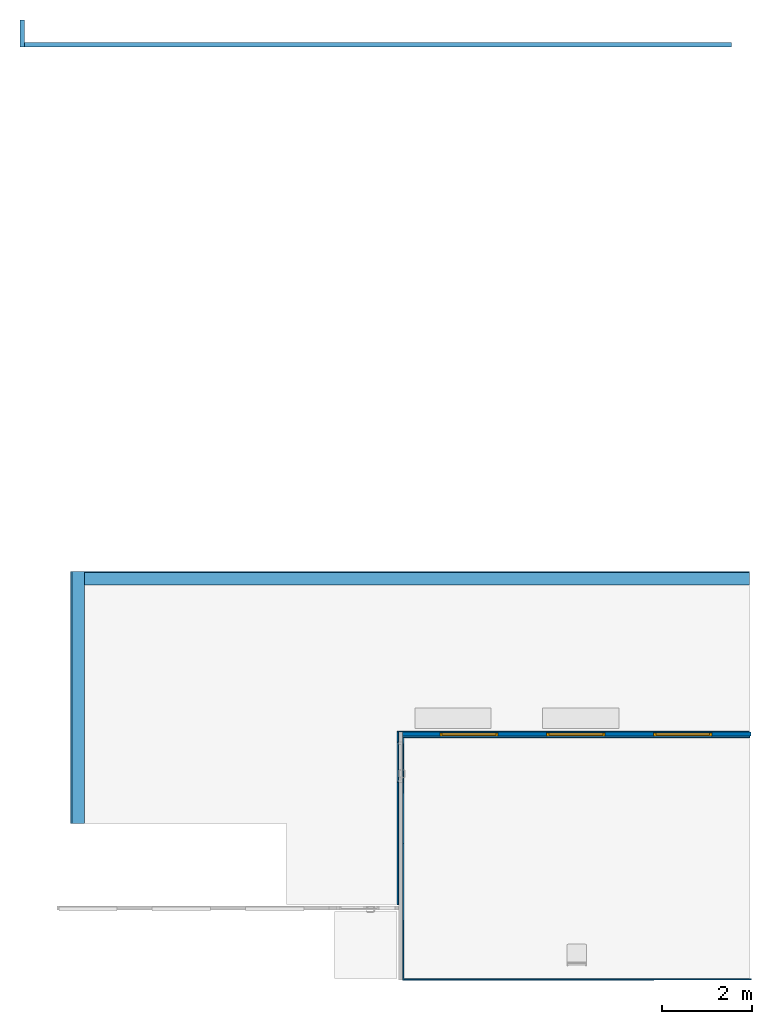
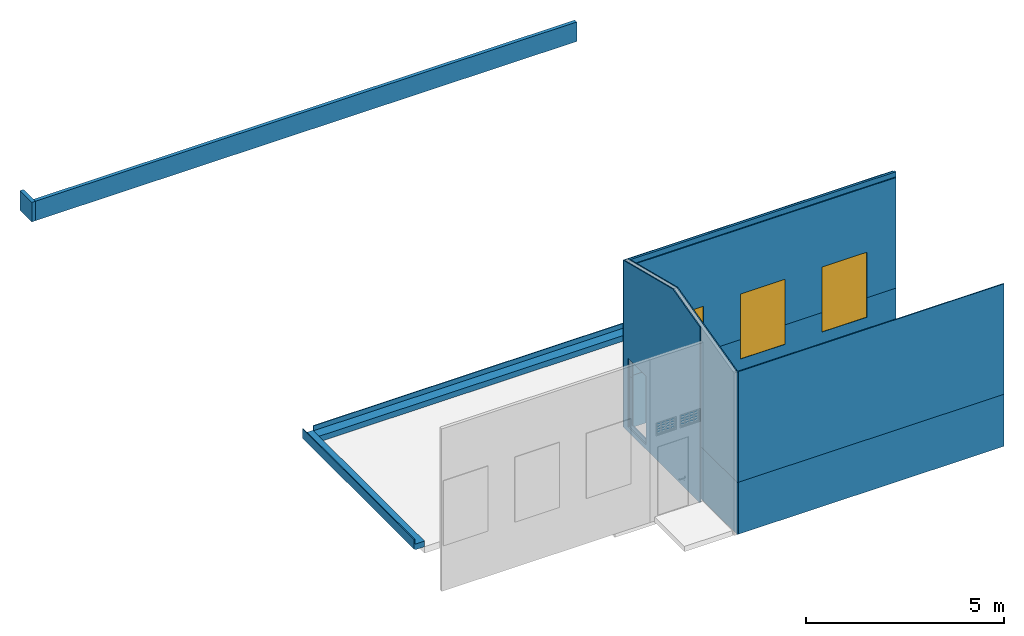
# One storey, part 4 of 5: 11 walls, 3 windows, 2 stair flights, 14 openings, 2 elements without a shape of their own.
"""IFC2X3 building model written with IfcOpenShell, lengths in metres."""

from ifc_helpers import new_model, entity, si_unit, converted_unit, derived_unit, direction, frame, frame_2d, origin, origin_2d_with_axis, place, context, subcontext, project, spatial, polyline, rectangle, outline, extrude, clip, bounded_halfspace, faceted_brep, source, transform, mapped, material, material_list, layer, layer_set, layer_usage, type_object, type_shapes, element, fill, aggregate, save


model = new_model("IFC2X3")

# Units and contexts
model_context = context("Model", 3, precision=1e-05, world=origin(), true_north=direction((6.12303176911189e-17, 1.0)))
body_context = subcontext(model_context, "Body", "Model", "MODEL_VIEW")
ifc_project = project(units=[si_unit("LENGTHUNIT", "METRE"), si_unit("AREAUNIT", "SQUARE_METRE"), si_unit("VOLUMEUNIT", "CUBIC_METRE"), converted_unit("PLANEANGLEUNIT", "DEGREE", entity("IfcRatioMeasure", 0.0174532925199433), si_unit("PLANEANGLEUNIT", "RADIAN"), dimensions=[0, 0, 0, 0, 0, 0, 0]), si_unit("MASSUNIT", "GRAM", prefix="KILO"), derived_unit("MASSDENSITYUNIT", [(si_unit("MASSUNIT", "GRAM", prefix="KILO"), 1), (si_unit("LENGTHUNIT", "METRE"), -3)]), si_unit("TIMEUNIT", "SECOND"), si_unit("FREQUENCYUNIT", "HERTZ"), si_unit("THERMODYNAMICTEMPERATUREUNIT", "DEGREE_CELSIUS"), derived_unit("THERMALTRANSMITTANCEUNIT", [(si_unit("MASSUNIT", "GRAM", prefix="KILO"), 1), (si_unit("THERMODYNAMICTEMPERATUREUNIT", "KELVIN"), -1), (si_unit("TIMEUNIT", "SECOND"), -3)]), derived_unit("VOLUMETRICFLOWRATEUNIT", [(si_unit("LENGTHUNIT", "METRE"), 3), (si_unit("TIMEUNIT", "SECOND"), -1)]), si_unit("ELECTRICCURRENTUNIT", "AMPERE"), si_unit("ELECTRICVOLTAGEUNIT", "VOLT"), si_unit("POWERUNIT", "WATT"), si_unit("FORCEUNIT", "NEWTON", prefix="KILO"), si_unit("ILLUMINANCEUNIT", "LUX"), si_unit("LUMINOUSFLUXUNIT", "LUMEN"), si_unit("LUMINOUSINTENSITYUNIT", "CANDELA"), derived_unit("USERDEFINED", [(si_unit("MASSUNIT", "GRAM", prefix="KILO"), -1), (si_unit("LENGTHUNIT", "METRE"), -2), (si_unit("TIMEUNIT", "SECOND"), 3), (si_unit("LUMINOUSFLUXUNIT", "LUMEN"), 1)]), derived_unit("LINEARVELOCITYUNIT", [(si_unit("LENGTHUNIT", "METRE"), 1), (si_unit("TIMEUNIT", "SECOND"), -1)]), si_unit("PRESSUREUNIT", "PASCAL"), derived_unit("USERDEFINED", [(si_unit("LENGTHUNIT", "METRE"), -2), (si_unit("MASSUNIT", "GRAM", prefix="KILO"), 1), (si_unit("TIMEUNIT", "SECOND"), -2)])], contexts=[model_context])

# Site, building, storey
site_placement = place(None, frame((26.9889013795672, -17.5624287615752, 0.0)))
site = spatial("IfcSite", under=ifc_project, at=site_placement, Name="Default", CompositionType="ELEMENT")
building_placement = place(site_placement, origin())
building = spatial("IfcBuilding", under=site, at=building_placement, Name="C. C. L. Monsenhor Antônio Sampaio", CompositionType="ELEMENT")
storey_placement = place(building_placement, frame((0.0, 0.0, 0.799999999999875)))
storey = spatial("IfcBuildingStorey", under=building, at=storey_placement, Name="Nível 0.8", CompositionType="ELEMENT", Elevation=0.799999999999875)

# Wall, openings, windows
ifc_material_1 = material(Name="ALVENARIA")
ifc_layer_1 = layer(ifc_material_1, 0.09)
ifc_layer_set_1 = layer_set([ifc_layer_1], Name="Parede básica:ENucleo parede 15cm")
ifc_layer_usage_1 = layer_usage(ifc_layer_set_1, "AXIS2", "NEGATIVE", 0.045)
wall_type_1 = type_object("IfcWallType", Name="Parede básica:ENucleo parede 15cm", PredefinedType="STANDARD", material=ifc_layer_set_1)
wall_1_placement = place(storey_placement, frame((3.84937716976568, -22.858066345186, 0.0)))
wall_1 = element("IfcWallStandardCase", 1, at=wall_1_placement, inside=storey, type_object=wall_type_1, material=ifc_layer_usage_1, Name="Parede básica:ENucleo parede 15cm", ObjectType="Parede básica:ENucleo parede 15cm", context=body_context, shape_type="Clipping", body=[
    clip(extrude(rectangle(XDim=7.76007053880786, YDim=0.0899999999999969, at=frame_2d((3.88003526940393, 0.0), x_axis=(-1.0, 0.0))), origin(), (0.0, 0.0, 1.0), 5.15500000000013), bounded_halfspace(frame((0.0, -0.0450000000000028, 5.15500000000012), z_axis=(0.0, 0.242535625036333, 0.970142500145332), x_axis=(-1.0, 0.0, 0.0)), False, frame((0.0, -0.0450000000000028, 5.15500000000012)), polyline([(0.0, 0.0), (7.76007053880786, 0.0), (7.76007053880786, 0.0900000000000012), (7.73007053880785, 0.0900000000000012), (0.0, 0.0900000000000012), (0.0, 0.0)]))),
])
opening_1_placement = place(wall_1_placement, frame((2.13000000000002, 0.0449999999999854, 1.0)))
opening_1 = element("IfcOpeningElement", 2, at=opening_1_placement, cuts=wall_1, Name="Janela levantamento:130 x 200cm 2:1", ObjectType="Opening", context=body_context, shape_type="SweptSolid", body=[
    extrude(rectangle(XDim=2.0, YDim=1.30000000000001, at=frame_2d((1.0, 0.650000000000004), x_axis=(1.0, 0.0))), frame((0.0, 0.0, 0.0), z_axis=(0.0, -1.0, 0.0), x_axis=(0.0, 0.0, 1.0)), (0.0, 0.0, 1.0), 0.09),
])
opening_2_placement = place(wall_1_placement, frame((6.89000000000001, 0.0449999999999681, 1.0)))
opening_2 = element("IfcOpeningElement", 3, at=opening_2_placement, cuts=wall_1, Name="Janela levantamento:130 x 200cm 2:1", ObjectType="Opening", context=body_context, shape_type="SweptSolid", body=[
    extrude(rectangle(XDim=2.0, YDim=1.30000000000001, at=frame_2d((1.0, 0.650000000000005), x_axis=(1.0, 0.0))), frame((0.0, 0.0, 0.0), z_axis=(0.0, -1.0, 0.0), x_axis=(0.0, 0.0, 1.0)), (0.0, 0.0, 1.0), 0.09),
])
opening_3_placement = place(wall_1_placement, frame((4.51007053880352, 0.0449999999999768, 1.0)))
opening_3 = element("IfcOpeningElement", 4, at=opening_3_placement, cuts=wall_1, Name="Janela levantamento:130 x 200cm 2:1", ObjectType="Opening", context=body_context, shape_type="SweptSolid", body=[
    extrude(rectangle(XDim=2.0, YDim=1.30000000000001, at=frame_2d((1.0, 0.650000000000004), x_axis=(1.0, 0.0))), frame((0.0, 0.0, 0.0), z_axis=(0.0, -1.0, 0.0), x_axis=(0.0, 0.0, 1.0)), (0.0, 0.0, 1.0), 0.09),
])
ifc_material_2 = material(Name="Pintura Azul")
window_style = type_object("IfcWindowStyle", Name="130 x 200cm 2", ConstructionType="NOTDEFINED", OperationType="NOTDEFINED", ParameterTakesPrecedence=False, Sizeable=False, material=ifc_material_2)
shared_shape = source(origin(), body_context, "Body", "SweptSolid", [
    extrude(rectangle(XDim=1.3, YDim=0.0209999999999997, at=frame_2d((0.0, 4.33680868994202e-18), x_axis=(1.0, 0.0))), frame((0.650000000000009, 0.0795000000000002, 0.0)), (0.0, 0.0, 1.0), 0.0299999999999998),
    extrude(outline(polyline([(-0.325000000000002, -1.0), (0.325000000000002, -1.0), (0.325000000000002, 1.0), (-0.325000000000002, 1.0), (-0.325000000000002, -1.0)]), holes=[polyline([(0.225000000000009, -0.899999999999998), (-0.225000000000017, -0.899999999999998), (-0.225000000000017, 0.900000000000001), (0.225000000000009, 0.900000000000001), (0.225000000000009, -0.899999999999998)])]), frame((0.325000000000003, 0.0690000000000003, 1.0), z_axis=(0.0, 1.0, 0.0), x_axis=(1.0, 0.0, 0.0)), (0.0, 0.0, 1.0), 0.04),
    extrude(outline(polyline([(-0.650000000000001, -1.0), (0.650000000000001, -1.0), (0.650000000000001, 1.0), (-0.650000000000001, 1.0), (-0.650000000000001, -1.0)]), holes=[polyline([(-0.599999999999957, -0.949999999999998), (-0.599999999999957, 0.94), (0.600000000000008, 0.94), (0.600000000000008, -0.949999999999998), (-0.599999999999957, -0.949999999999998)])]), frame((0.650000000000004, 0.019, 1.0), z_axis=(0.0, 1.0, 0.0), x_axis=(1.0, 0.0, 0.0)), (0.0, 0.0, 1.0), 0.05),
    extrude(rectangle(XDim=0.0205880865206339, YDim=0.450000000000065, at=origin_2d_with_axis()), frame((0.324999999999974, 0.0987059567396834, 0.0999999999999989), z_axis=(0.0, 0.0, 1.0), x_axis=(0.0, 1.0, 0.0)), (0.0, 0.0, 1.0), 1.8),
    extrude(rectangle(XDim=0.0205880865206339, YDim=0.449999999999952, at=frame_2d((0.0, 4.16333634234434e-17), x_axis=(1.0, 0.0))), frame((0.977826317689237, 0.0987059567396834, 0.100000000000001), z_axis=(0.0, 0.0, 1.0), x_axis=(0.0, 1.0, 0.0)), (0.0, 0.0, 1.0), 1.8),
    extrude(outline(polyline([(-1.0, -0.325000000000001), (1.0, -0.325000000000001), (1.0, 0.325000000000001), (-1.0, 0.325000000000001), (-1.0, -0.325000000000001)]), holes=[polyline([(-0.899999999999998, 0.224999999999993), (0.900000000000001, 0.224999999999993), (0.900000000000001, -0.225000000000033), (-0.899999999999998, -0.225000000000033), (-0.899999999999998, 0.224999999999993)])]), frame((0.975000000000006, 0.0690000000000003, 1.0), z_axis=(0.0, 1.0, 0.0), x_axis=(0.0, 0.0, -1.0)), (0.0, 0.0, 1.0), 0.04),
])
type_shapes(window_style, [shared_shape])
window_1_placement = place(opening_1_placement, frame((0.0, 0.0, 0.0), z_axis=(0.0, 0.0, 1.0), x_axis=(-1.0, 0.0, 0.0)))
window_1 = element("IfcWindow", 5, at=window_1_placement, inside=storey, type_object=window_style, material=ifc_material_2, Name="Janela levantamento:130 x 200cm 2", ObjectType="130 x 200cm 2", OverallHeight=2.0, OverallWidth=1.30000000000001, context=body_context, shape_type="MappedRepresentation", body=[
    mapped(shared_shape, transform((0.0, 0.0, 0.0), scale=1.0)),
])
fill(opening_1, window_1)
window_2_placement = place(opening_2_placement, frame((0.0, 0.0, 0.0), z_axis=(0.0, 0.0, 1.0), x_axis=(-1.0, 0.0, 0.0)))
window_2 = element("IfcWindow", 6, at=window_2_placement, inside=storey, type_object=window_style, material=ifc_material_2, Name="Janela levantamento:130 x 200cm 2", ObjectType="130 x 200cm 2", OverallHeight=2.0, OverallWidth=1.30000000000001, context=body_context, shape_type="MappedRepresentation", body=[
    mapped(shared_shape, transform((0.0, 0.0, 0.0), scale=1.0)),
])
fill(opening_2, window_2)
window_3_placement = place(opening_3_placement, frame((0.0, 0.0, 0.0), z_axis=(0.0, 0.0, 1.0), x_axis=(-1.0, 0.0, 0.0)))
window_3 = element("IfcWindow", 7, at=window_3_placement, inside=storey, type_object=window_style, material=ifc_material_2, Name="Janela levantamento:130 x 200cm 2", ObjectType="130 x 200cm 2", OverallHeight=2.0, OverallWidth=1.30000000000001, context=body_context, shape_type="MappedRepresentation", body=[
    mapped(shared_shape, transform((0.0, 0.0, 0.0), scale=1.0)),
])
fill(opening_3, window_3)

# Walls
ifc_material_3 = material(Name=".CERÂMICA 10x10 BRANCA")
ifc_layer_2 = layer(ifc_material_3, 0.0035)
ifc_material_4 = material(Name="Argamassa Colante")
ifc_layer_3 = layer(ifc_material_4, 0.02)
ifc_material_5 = material(Name="4")
ifc_layer_4 = layer(ifc_material_5, 0.0015)
ifc_material_6 = material(Name="3")
ifc_layer_5 = layer(ifc_material_6, 0.005)
ifc_layer_set_2 = layer_set([ifc_layer_2, ifc_layer_3, ifc_layer_4, ifc_layer_5], Name="Parede básica:ECeramica branca 10x10cm")
ifc_layer_usage_2 = layer_usage(ifc_layer_set_2, "AXIS2", "NEGATIVE", 0.015)
wall_type_2 = type_object("IfcWallType", Name="Parede básica:ECeramica branca 10x10cm", PredefinedType="STANDARD", material=ifc_layer_set_2)
wall_2_placement = place(storey_placement, frame((3.87937716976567, -28.318066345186, 0.0)))
element("IfcWallStandardCase", 8, at=wall_2_placement, inside=storey, type_object=wall_type_2, material=ifc_layer_usage_2, Name="Parede básica:ECeramica branca 10x10cm", ObjectType="Parede básica:ECeramica branca 10x10cm", context=body_context, shape_type="SweptSolid", body=[
    extrude(rectangle(XDim=7.73007053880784, YDim=0.0300000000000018, at=frame_2d((3.86503526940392, -3.66026653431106e-16), x_axis=(-1.0, 0.0))), origin(), (0.0, 0.0, 1.0), 1.6),
])
wall_3_placement = place(storey_placement, frame((3.86437716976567, -28.333066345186, 0.0), z_axis=(0.0, 0.0, 1.0), x_axis=(0.0, 1.0, 0.0)))
element("IfcWall", 9, at=wall_3_placement, inside=storey, type_object=wall_type_2, Name="Parede básica:ECeramica branca 10x10cm", ObjectType="Parede básica:ECeramica branca 10x10cm", context=body_context, shape_type="Brep", body=[
    faceted_brep([(0.0, -0.0150000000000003, 0.0), (0.0300000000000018, -0.0150000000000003, 0.0), (5.39999999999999, -0.0150000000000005, 0.0), (5.39999999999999, -0.0150000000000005, 1.6), (5.3, -0.0150000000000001, 1.6), (5.3, -0.0150000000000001, 0.15), (4.39999999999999, -0.0150000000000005, 0.15), (4.4, -0.0150000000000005, 1.6), (0.0300000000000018, -0.0150000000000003, 1.6), (0.0, -0.0150000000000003, 1.6), (5.39999999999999, 0.0149999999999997, 0.0), (0.0, 0.0149999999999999, 0.0), (0.0, 0.0149999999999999, 1.6), (4.39999999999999, 0.0149999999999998, 1.6), (4.4, 0.0149999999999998, 0.15), (5.3, 0.0150000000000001, 0.15), (5.3, 0.0150000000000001, 1.6), (5.39999999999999, 0.0149999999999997, 1.6)], [[[0, 1, 2, 3, 4, 5, 6, 7, 8, 9]], [[10, 11, 12, 13, 14, 15, 16, 17]], [[2, 1, 0, 11, 10]], [[3, 2, 10, 17]], [[0, 9, 12, 11]], [[12, 9, 8, 7, 13]], [[15, 5, 4, 16]], [[6, 14, 13, 7]], [[5, 15, 14, 6]], [[3, 17, 16, 4]]]),
])

# Wall, openings
ifc_layer_usage_3 = layer_usage(ifc_layer_set_2, "AXIS2", "POSITIVE", -0.015)
wall_4_placement = place(storey_placement, frame((3.84937716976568, -22.918066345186, 0.0)))
wall_4 = element("IfcWallStandardCase", 10, at=wall_4_placement, inside=storey, type_object=wall_type_2, material=ifc_layer_usage_3, Name="Parede básica:ECeramica branca 10x10cm", ObjectType="Parede básica:ECeramica branca 10x10cm", context=body_context, shape_type="SweptSolid", body=[
    extrude(rectangle(XDim=7.73007053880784, YDim=0.0300000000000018, at=frame_2d((3.86503526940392, 0.0), x_axis=(-1.0, 0.0))), origin(), (0.0, 0.0, 1.0), 1.6),
])
opening_4_placement = place(wall_4_placement, origin())
element("IfcOpeningElement", 11, at=opening_4_placement, cuts=wall_4, Name="Parede básica:ECeramica branca 10x10cm", ObjectType="Opening", context=body_context, shape_type="SweptSolid", body=[
    extrude(rectangle(XDim=2.0, YDim=1.30000000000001, at=frame_2d((5.55111512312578e-16, -3.88578058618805e-16), x_axis=(0.0, 1.0))), frame((1.48000000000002, -1.419, 2.0), z_axis=(0.0, 1.0, 0.0), x_axis=(-1.0, 0.0, 0.0)), (0.0, 0.0, 1.0), 3.048),
])
opening_5_placement = place(wall_4_placement, origin())
element("IfcOpeningElement", 12, at=opening_5_placement, cuts=wall_4, Name="Parede básica:ECeramica branca 10x10cm", ObjectType="Opening", context=body_context, shape_type="SweptSolid", body=[
    extrude(rectangle(XDim=2.0, YDim=1.30000000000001, at=frame_2d((-4.9960036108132e-16, -3.88578058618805e-16), x_axis=(0.0, 1.0))), frame((6.24, -1.419, 2.0), z_axis=(0.0, 1.0, 0.0), x_axis=(-1.0, 0.0, 0.0)), (0.0, 0.0, 1.0), 3.048),
])
opening_6_placement = place(wall_4_placement, origin())
element("IfcOpeningElement", 13, at=opening_6_placement, cuts=wall_4, Name="Parede básica:ECeramica branca 10x10cm", ObjectType="Opening", context=body_context, shape_type="SweptSolid", body=[
    extrude(rectangle(XDim=2.0, YDim=1.30000000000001, at=frame_2d((0.0, -3.88578058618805e-16), x_axis=(0.0, 1.0))), frame((3.86007053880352, -1.419, 2.0), z_axis=(0.0, 1.0, 0.0), x_axis=(-1.0, 0.0, 0.0)), (0.0, 0.0, 1.0), 3.048),
])

# Wall
ifc_material_7 = material(Name="Acabamento Branco")
ifc_layer_6 = layer(ifc_material_7, 0.0035)
ifc_material_8 = material(Name="Massa corrida")
ifc_layer_7 = layer(ifc_material_8, 0.02)
ifc_layer_8 = layer(ifc_material_5, 0.0015)
ifc_layer_9 = layer(ifc_material_6, 0.005)
ifc_layer_set_3 = layer_set([ifc_layer_6, ifc_layer_7, ifc_layer_8, ifc_layer_9], Name="Parede básica:EPintura Branca")
ifc_layer_usage_4 = layer_usage(ifc_layer_set_3, "AXIS2", "NEGATIVE", 0.015)
wall_type_3 = type_object("IfcWallType", Name="Parede básica:EPintura Branca", PredefinedType="STANDARD", material=ifc_layer_set_3)
wall_5_placement = place(storey_placement, frame((3.87937716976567, -28.318066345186, 1.6)))
element("IfcWallStandardCase", 14, at=wall_5_placement, inside=storey, type_object=wall_type_3, material=ifc_layer_usage_4, Name="Parede básica:EPintura Branca", ObjectType="Parede básica:EPintura Branca", context=body_context, shape_type="SweptSolid", body=[
    extrude(rectangle(XDim=7.73007053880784, YDim=0.0300000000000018, at=frame_2d((3.86503526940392, -3.66026653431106e-16), x_axis=(-1.0, 0.0))), origin(), (0.0, 0.0, 1.0), 3.40000000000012),
])

# Wall, opening
ifc_layer_usage_5 = layer_usage(ifc_layer_set_3, "AXIS2", "POSITIVE", -0.015)
wall_6_placement = place(storey_placement, frame((3.86437716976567, -28.333066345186, 1.6), z_axis=(0.0, 0.0, 1.0), x_axis=(0.0, 1.0, 0.0)))
wall_6 = element("IfcWallStandardCase", 15, at=wall_6_placement, inside=storey, type_object=wall_type_3, material=ifc_layer_usage_5, Name="Parede básica:EPintura Branca", ObjectType="Parede básica:EPintura Branca", context=body_context, shape_type="Clipping", body=[
    clip(clip(clip(extrude(rectangle(XDim=5.39999999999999, YDim=0.0299999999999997, at=frame_2d((2.7, -1.06685493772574e-16), x_axis=(-1.0, 0.0))), origin(), (0.0, 0.0, 1.0), 4.15250000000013), bounded_halfspace(frame((0.0542535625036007, 0.0150000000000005, 3.40606339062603), z_axis=(-0.242535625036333, 0.0, 0.970142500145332), x_axis=(0.0, -1.0, 0.0)), False, frame((0.0542535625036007, 0.0150000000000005, 3.40606339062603)), polyline([(0.0, 0.0), (0.0, -0.0300000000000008), (2.98574643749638, -0.030000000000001), (2.98574643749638, 0.0), (0.0, 0.0)]))), bounded_halfspace(frame((5.39999999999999, -0.0150000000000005, 3.56250000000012), z_axis=(0.242535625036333, 0.0, 0.970142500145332), x_axis=(0.0, 1.0, 0.0)), False, frame((5.39999999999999, -0.0150000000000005, 3.56250000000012)), polyline([(0.0, 0.0), (0.0, 0.0300000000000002), (-2.36000000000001, 0.0300000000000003), (-2.36000000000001, 0.0), (0.0, 0.0)]))), bounded_halfspace(frame((0.0, 0.0149999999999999, 3.40000000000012), z_axis=(0.0, 0.0, 1.0), x_axis=(0.0, 1.0, 0.0)), False, frame((0.0, 0.0149999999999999, 3.40000000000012)), polyline([(0.0, 0.0), (0.0, -0.0300000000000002), (0.0300000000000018, -0.0300000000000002), (0.0542535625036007, -0.0300000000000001), (0.0542535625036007, 0.0), (0.0, 0.0)]))),
])
opening_7_placement = place(wall_6_placement, origin())
element("IfcOpeningElement", 16, at=opening_7_placement, cuts=wall_6, Name="Parede básica:EPintura Branca", ObjectType="Opening", context=body_context, shape_type="SweptSolid", body=[
    extrude(rectangle(XDim=2.09999999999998, YDim=0.900000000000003, at=frame_2d((0.0, 1.11022302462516e-16), x_axis=(0.0, 1.0))), frame((4.85, -1.509, -0.400000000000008), z_axis=(0.0, 1.0, 0.0), x_axis=(-1.0, 0.0, 0.0)), (0.0, 0.0, 1.0), 3.048),
])

# Wall, openings
ifc_layer_usage_6 = layer_usage(ifc_layer_set_3, "AXIS2", "POSITIVE", -0.015)
wall_7_placement = place(storey_placement, frame((3.84937716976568, -22.918066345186, 1.6)))
wall_7 = element("IfcWallStandardCase", 17, at=wall_7_placement, inside=storey, type_object=wall_type_3, material=ifc_layer_usage_6, Name="Parede básica:EPintura Branca", ObjectType="Parede básica:EPintura Branca", context=body_context, shape_type="SweptSolid", body=[
    extrude(rectangle(XDim=7.73007053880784, YDim=0.0300000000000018, at=frame_2d((3.86503526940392, 0.0), x_axis=(-1.0, 0.0))), origin(), (0.0, 0.0, 1.0), 3.40000000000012),
])
opening_8_placement = place(wall_7_placement, origin())
element("IfcOpeningElement", 18, at=opening_8_placement, cuts=wall_7, Name="Parede básica:EPintura Branca", ObjectType="Opening", context=body_context, shape_type="SweptSolid", body=[
    extrude(rectangle(XDim=2.0, YDim=1.30000000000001, at=frame_2d((5.55111512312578e-16, -3.88578058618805e-16), x_axis=(0.0, 1.0))), frame((1.48000000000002, -1.419, 0.4), z_axis=(0.0, 1.0, 0.0), x_axis=(-1.0, 0.0, 0.0)), (0.0, 0.0, 1.0), 3.048),
])
opening_9_placement = place(wall_7_placement, origin())
element("IfcOpeningElement", 19, at=opening_9_placement, cuts=wall_7, Name="Parede básica:EPintura Branca", ObjectType="Opening", context=body_context, shape_type="SweptSolid", body=[
    extrude(rectangle(XDim=2.0, YDim=1.30000000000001, at=frame_2d((-4.9960036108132e-16, -3.88578058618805e-16), x_axis=(0.0, 1.0))), frame((6.24, -1.419, 0.4), z_axis=(0.0, 1.0, 0.0), x_axis=(-1.0, 0.0, 0.0)), (0.0, 0.0, 1.0), 3.048),
])
opening_10_placement = place(wall_7_placement, origin())
element("IfcOpeningElement", 20, at=opening_10_placement, cuts=wall_7, Name="Parede básica:EPintura Branca", ObjectType="Opening", context=body_context, shape_type="SweptSolid", body=[
    extrude(rectangle(XDim=2.0, YDim=1.30000000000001, at=frame_2d((0.0, -3.88578058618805e-16), x_axis=(0.0, 1.0))), frame((3.86007053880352, -1.419, 0.4), z_axis=(0.0, 1.0, 0.0), x_axis=(-1.0, 0.0, 0.0)), (0.0, 0.0, 1.0), 3.048),
])

ifc_material_9 = material(Name="Acabamento amarelo")
ifc_layer_10 = layer(ifc_material_9, 0.0035)
ifc_layer_11 = layer(ifc_material_8, 0.02)
ifc_layer_12 = layer(ifc_material_5, 0.0015)
ifc_layer_13 = layer(ifc_material_6, 0.005)
ifc_layer_set_4 = layer_set([ifc_layer_10, ifc_layer_11, ifc_layer_12, ifc_layer_13], Name="Parede básica:EPintura amarela")
ifc_layer_usage_7 = layer_usage(ifc_layer_set_4, "AXIS2", "NEGATIVE", 0.015)
wall_type_4 = type_object("IfcWallType", Name="Parede básica:EPintura amarela", PredefinedType="STANDARD", material=ifc_layer_set_4)
wall_8_placement = place(storey_placement, frame((3.72937716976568, -22.798066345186, 0.0)))
wall_8 = element("IfcWallStandardCase", 21, at=wall_8_placement, inside=storey, type_object=wall_type_4, material=ifc_layer_usage_7, Name="Parede básica:EPintura amarela", ObjectType="Parede básica:EPintura amarela", context=body_context, shape_type="Clipping", body=[
    clip(extrude(rectangle(XDim=7.85007053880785, YDim=0.0300000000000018, at=frame_2d((3.92503526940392, 4.9439619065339e-17), x_axis=(-1.0, 0.0))), origin(), (0.0, 0.0, 1.0), 5.13250000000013), bounded_halfspace(frame((0.0, -0.0150000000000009, 5.13250000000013), z_axis=(0.0, 0.242535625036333, 0.970142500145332), x_axis=(-1.0, 0.0, 0.0)), False, frame((0.0, -0.0150000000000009, 5.13250000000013)), polyline([(0.0, 0.0), (0.0300000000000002, 0.0), (0.12, 0.0), (7.85007053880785, 0.0), (7.85007053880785, 0.0300000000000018), (0.0, 0.0300000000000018), (0.0, 0.0)]))),
])
opening_11_placement = place(wall_8_placement, origin())
element("IfcOpeningElement", 22, at=opening_11_placement, cuts=wall_8, Name="Parede básica:EPintura amarela", ObjectType="Opening", context=body_context, shape_type="SweptSolid", body=[
    extrude(rectangle(XDim=2.0, YDim=1.30000000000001, at=frame_2d((5.55111512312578e-16, -3.88578058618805e-16), x_axis=(0.0, 1.0))), frame((1.60000000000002, -1.539, 2.0), z_axis=(0.0, 1.0, 0.0), x_axis=(-1.0, 0.0, 0.0)), (0.0, 0.0, 1.0), 3.048),
])
opening_12_placement = place(wall_8_placement, origin())
element("IfcOpeningElement", 23, at=opening_12_placement, cuts=wall_8, Name="Parede básica:EPintura amarela", ObjectType="Opening", context=body_context, shape_type="SweptSolid", body=[
    extrude(rectangle(XDim=2.0, YDim=1.30000000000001, at=frame_2d((-4.9960036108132e-16, -3.88578058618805e-16), x_axis=(0.0, 1.0))), frame((6.36, -1.539, 2.0), z_axis=(0.0, 1.0, 0.0), x_axis=(-1.0, 0.0, 0.0)), (0.0, 0.0, 1.0), 3.048),
])
opening_13_placement = place(wall_8_placement, origin())
element("IfcOpeningElement", 24, at=opening_13_placement, cuts=wall_8, Name="Parede básica:EPintura amarela", ObjectType="Opening", context=body_context, shape_type="SweptSolid", body=[
    extrude(rectangle(XDim=2.0, YDim=1.30000000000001, at=frame_2d((0.0, -3.88578058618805e-16), x_axis=(0.0, 1.0))), frame((3.98007053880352, -1.539, 2.0), z_axis=(0.0, 1.0, 0.0), x_axis=(-1.0, 0.0, 0.0)), (0.0, 0.0, 1.0), 3.048),
])

# Wall, opening
ifc_layer_usage_8 = layer_usage(ifc_layer_set_4, "AXIS2", "NEGATIVE", 0.015)
wall_9_placement = place(storey_placement, frame((3.74437716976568, -26.6530663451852, 0.0), z_axis=(0.0, 0.0, 1.0), x_axis=(0.0, 1.0, 0.0)))
wall_9 = element("IfcWallStandardCase", 25, at=wall_9_placement, inside=storey, type_object=wall_type_4, material=ifc_layer_usage_8, Name="Parede básica:EPintura amarela", ObjectType="Parede básica:EPintura amarela", context=body_context, shape_type="Clipping", body=[
    clip(clip(extrude(rectangle(XDim=3.83999999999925, YDim=0.0299999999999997, at=frame_2d((1.91999999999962, -1.09287578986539e-16), x_axis=(-1.0, 0.0))), origin(), (0.0, 0.0, 1.0), 5.75250000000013), bounded_halfspace(frame((0.0, -0.0150000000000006, 5.41250000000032), z_axis=(-0.242535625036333, 0.0, 0.970142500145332), x_axis=(0.0, -1.0, 0.0)), False, frame((0.0, -0.0150000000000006, 5.41250000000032)), polyline([(0.0, 0.0), (1.35999999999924, 0.0), (1.35999999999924, 0.0299999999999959), (0.0, 0.0300000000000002), (0.0, 0.0)]))), bounded_halfspace(frame((1.35999999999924, -0.0150000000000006, 5.75250000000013), z_axis=(0.242535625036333, 0.0, 0.970142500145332), x_axis=(0.0, 1.0, 0.0)), False, frame((1.35999999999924, -0.0150000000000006, 5.75250000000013)), polyline([(0.0, 0.0), (2.48, 0.0), (2.48, 0.0299999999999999), (0.0, 0.0300000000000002), (0.0, 0.0)]))),
])
opening_14_placement = place(wall_9_placement, origin())
element("IfcOpeningElement", 26, at=opening_14_placement, cuts=wall_9, Name="Parede básica:EPintura amarela", ObjectType="Opening", context=body_context, shape_type="SweptSolid", body=[
    extrude(rectangle(XDim=2.09999999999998, YDim=0.900000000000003, at=frame_2d((0.0, 1.11022302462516e-16), x_axis=(0.0, 1.0))), frame((3.16999999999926, -1.629, 1.19999999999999), z_axis=(0.0, 1.0, 0.0), x_axis=(-1.0, 0.0, 0.0)), (0.0, 0.0, 1.0), 3.048),
])

# Walls
ifc_material_10 = material(Name=".Pintura branca")
ifc_layer_14 = layer(ifc_material_10, 0.005)
ifc_material_11 = material(Name=".Alvenaria")
ifc_layer_15 = layer(ifc_material_11, 0.09)
ifc_layer_16 = layer(ifc_material_10, 0.005)
ifc_layer_set_5 = layer_set([ifc_layer_14, ifc_layer_15, ifc_layer_16], Name="Parede básica:10cm - Canteiros")
ifc_layer_usage_9 = layer_usage(ifc_layer_set_5, "AXIS2", "NEGATIVE", 0.05)
wall_type_5 = type_object("IfcWallType", Name="Parede básica:10cm - Canteiros", PredefinedType="STANDARD", material=ifc_layer_set_5)
wall_10_placement = place(storey_placement, frame((-4.62055229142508, -6.95306634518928, 0.0), z_axis=(0.0, 0.0, 1.0), x_axis=(0.0, -1.0, 0.0)))
element("IfcWallStandardCase", 27, at=wall_10_placement, inside=storey, type_object=wall_type_5, material=ifc_layer_usage_9, Name="Parede básica:10cm - Canteiros", ObjectType="Parede básica:10cm - Canteiros", context=body_context, shape_type="SweptSolid", body=[
    extrude(rectangle(XDim=0.599999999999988, YDim=0.1, at=frame_2d((0.299999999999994, 5.55111512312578e-17), x_axis=(-1.0, 0.0))), origin(), (0.0, 0.0, 1.0), 0.600000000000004),
])
ifc_layer_usage_10 = layer_usage(ifc_layer_set_5, "AXIS2", "NEGATIVE", 0.05)
wall_11_placement = place(storey_placement, frame((-4.57055229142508, -7.50306634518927, 0.0)))
element("IfcWallStandardCase", 28, at=wall_11_placement, inside=storey, type_object=wall_type_5, material=ifc_layer_usage_10, Name="Parede básica:10cm - Canteiros", ObjectType="Parede básica:10cm - Canteiros", context=body_context, shape_type="SweptSolid", body=[
    extrude(rectangle(XDim=15.7499999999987, YDim=0.0999999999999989, at=frame_2d((7.87499999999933, -2.18575157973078e-16), x_axis=(-1.0, 0.0))), origin(), (0.0, 0.0, 1.0), 0.600000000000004),
])

# Stair, stair flight
stair_1_placement = place(storey_placement, origin())
stair_1 = element("IfcStair", 29, at=stair_1_placement, inside=storey, Name="Escada moldada no local:Escada", ObjectType="Escada moldada no local:Escada monolítica", ShapeType="NOTDEFINED")
ifc_material_12 = material(Name=".Concreto")
ifc_material_list_1 = material_list([ifc_material_10, ifc_material_12])
stair_flight_1_placement = place(stair_1_placement, origin())
stair_flight_1 = element("IfcStairFlight", 30, at=stair_flight_1_placement, material=ifc_material_list_1, Name="Escada moldada no local:Escada:4106907 Run 1", ObjectType="Escada moldada no local:Escada monolítica", NumberOfRiser=2, NumberOfTreads=1, RiserHeight=0.574146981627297, TreadLength=0.918635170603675, context=body_context, shape_type="SweptSolid", body=[
    extrude(rectangle(XDim=5.61999999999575, YDim=0.0249999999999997, at=frame_2d((-1.11022302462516e-15, 5.41233724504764e-16), x_axis=(1.0, 0.0))), frame((-3.24911057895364, -22.0430663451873, 0.0), z_axis=(0.0, 0.0, 1.0), x_axis=(0.0, -1.0, 0.0)), (0.0, 0.0, 1.0), 0.15),
    extrude(rectangle(XDim=5.61999999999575, YDim=0.0249999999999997, at=frame_2d((-1.11022302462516e-15, 0.0), x_axis=(1.0, 0.0))), frame((-3.52911057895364, -22.0430663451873, 0.175), z_axis=(0.0, 0.0, 1.0), x_axis=(0.0, -1.0, 0.0)), (0.0, 0.0, 1.0), 0.15),
    extrude(rectangle(XDim=0.305, YDim=5.61999999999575, at=frame_2d((2.63677968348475e-16, 1.11022302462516e-15), x_axis=(1.0, 0.0))), frame((-3.38911057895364, -22.0430663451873, 0.15)), (0.0, 0.0, 1.0), 0.025),
    extrude(outline(polyline([(-0.0835849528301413, -0.157735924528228), (0.0664150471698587, -0.157735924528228), (0.0664150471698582, 0.0709436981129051), (0.0343398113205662, 0.122264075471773), (-0.0835849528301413, 0.122264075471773), (-0.0835849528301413, -0.157735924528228)])), frame((-3.41934650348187, -24.8530663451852, 0.0664150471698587), z_axis=(0.0, 1.0, 0.0), x_axis=(0.0, 0.0, -1.0)), (0.0, 0.0, 1.0), 5.61999999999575),
])
aggregate(stair_1, [stair_flight_1])

stair_2_placement = place(storey_placement, origin())
stair_2 = element("IfcStair", 31, at=stair_2_placement, inside=storey, Name="Escada moldada no local:Escada", ObjectType="Escada moldada no local:Escada monolítica", ShapeType="NOTDEFINED")
ifc_material_list_2 = material_list([ifc_material_10, ifc_material_12])
stair_flight_2_placement = place(stair_2_placement, origin())
stair_flight_2 = element("IfcStairFlight", 32, at=stair_flight_2_placement, material=ifc_material_list_2, Name="Escada moldada no local:Escada:4107484 Run 1", ObjectType="Escada moldada no local:Escada monolítica", NumberOfRiser=2, NumberOfTreads=1, RiserHeight=0.574146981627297, TreadLength=0.918635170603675, context=body_context, shape_type="SweptSolid", body=[
    extrude(rectangle(XDim=14.8160582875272, YDim=0.0249999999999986, at=origin_2d_with_axis()), frame((4.17141856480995, -19.5281376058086, 0.0), z_axis=(0.0, 0.0, 1.0), x_axis=(-1.0, 0.0, 0.0)), (0.0, 0.0, 1.0), 0.15),
    extrude(rectangle(XDim=14.8160582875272, YDim=0.0250000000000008, at=origin_2d_with_axis()), frame((4.17141856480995, -19.2481376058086, 0.175), z_axis=(0.0, 0.0, 1.0), x_axis=(-1.0, 0.0, 0.0)), (0.0, 0.0, 1.0), 0.15),
    extrude(rectangle(XDim=0.304999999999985, YDim=14.8160582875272, at=frame_2d((7.57727214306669e-15, 4.44089209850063e-16), x_axis=(1.0, 0.0))), frame((4.17141856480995, -19.3881376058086, 0.15), z_axis=(0.0, 0.0, 1.0), x_axis=(0.0, -1.0, 0.0)), (0.0, 0.0, 1.0), 0.025),
    extrude(outline(polyline([(-0.0835849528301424, -0.157735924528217), (0.0664150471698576, -0.157735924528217), (0.0664150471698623, 0.0709436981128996), (0.0343398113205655, 0.122264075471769), (-0.0835849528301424, 0.122264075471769), (-0.0835849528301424, -0.157735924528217)])), frame((-3.23661057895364, -19.3579016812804, 0.0664150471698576), z_axis=(1.0, 0.0, 0.0), x_axis=(0.0, 0.0, -1.0)), (0.0, 0.0, 1.0), 14.8160582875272),
])
aggregate(stair_2, [stair_flight_2])

save(model, "model.ifc")
